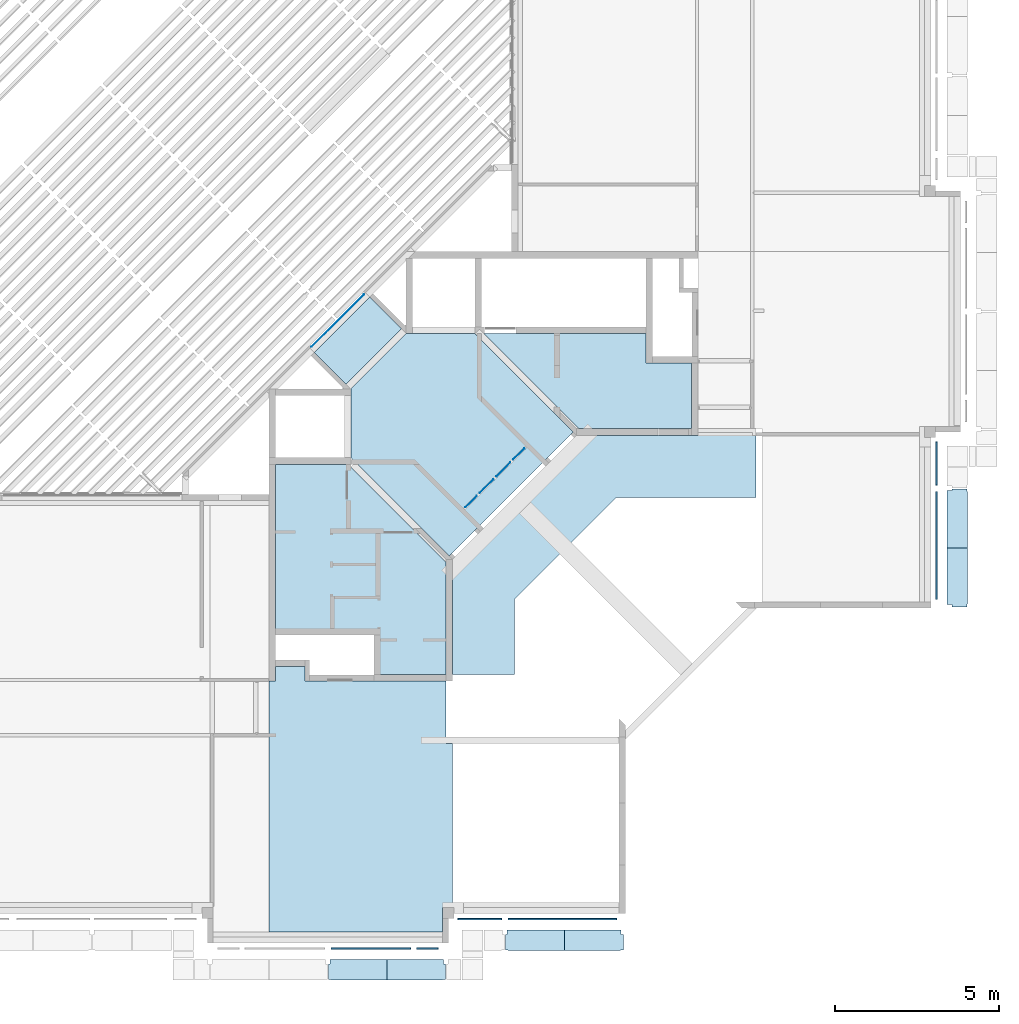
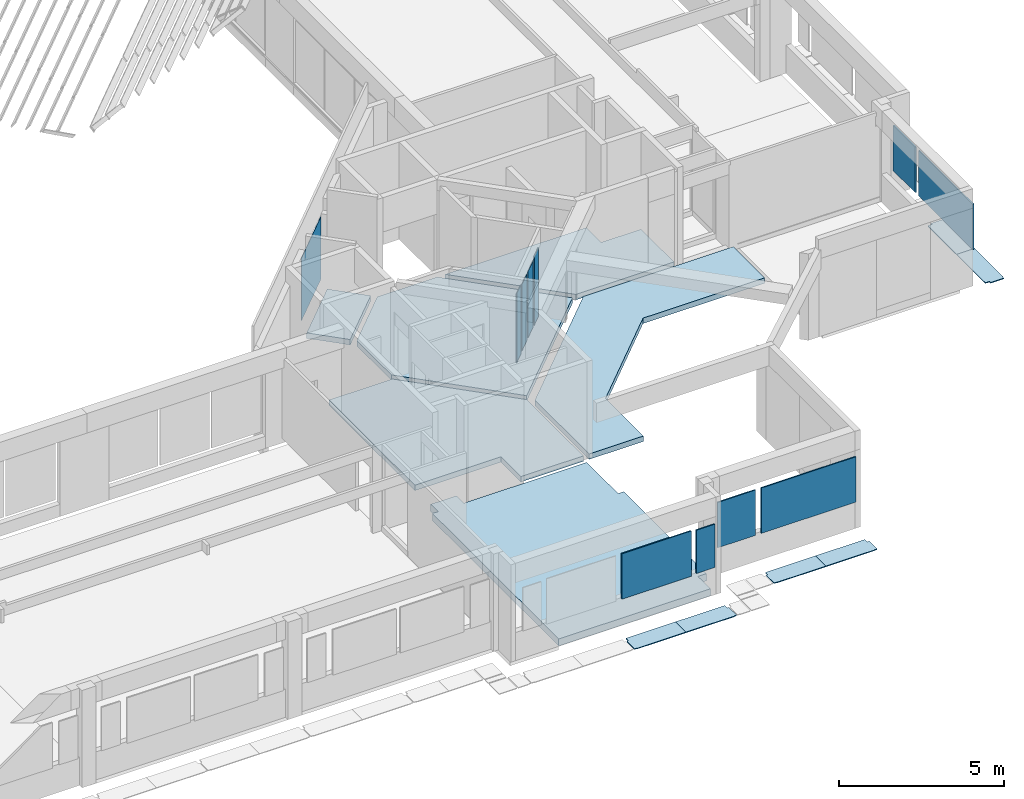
# One storey, part 18 of 37: 12 slabs, 11 plates.
"""IFC4X3_ADD2 building model written with IfcOpenShell, lengths in millimetres."""

from ifc_helpers import new_model, si_unit, direction, frame, frame_2d, origin_with_axes, origin_2d_with_axis, place, context, subcontext, project, spatial, polyline, rectangle, outline, extrude, source, transform, mapped, material, type_object, element, save


model = new_model("IFC4X3_ADD2")

# Units and contexts
model_context = context("Model", 3, precision=1e-05, world=origin_with_axes(), true_north=direction((0.0, 1.0)))
body_context = subcontext(model_context, "Body", "Model", "MODEL_VIEW")
ifc_project = project(units=[si_unit("LENGTHUNIT", "METRE", prefix="MILLI"), si_unit("AREAUNIT", "SQUARE_METRE"), si_unit("VOLUMEUNIT", "CUBIC_METRE"), si_unit("PLANEANGLEUNIT", "RADIAN"), si_unit("TIMEUNIT", "SECOND"), si_unit("MASSUNIT", "GRAM")], contexts=[model_context])

# Site, building, storey
site_placement = place(None, origin_with_axes())
site = spatial("IfcSite", under=ifc_project, at=site_placement, Name="Site", CompositionType="ELEMENT")
building_placement = place(site_placement, origin_with_axes())
building = spatial("IfcBuilding", under=site, at=building_placement, Name="IFC Building Story")
storey_placement = place(building_placement, frame((0.0, 0.0, 3600.0), z_axis=(0.0, 0.0, 1.0), x_axis=(1.0, 0.0, 0.0)))
storey = spatial("IfcBuildingStorey", under=building, at=storey_placement, Name="010", Elevation=3600.0)

# Slabs
ifc_material_1 = material(Name="BB_Beton_Bestaand")
slab_type_1 = type_object("IfcSlabType", Name="BB_Beton_Bestaand 200", PredefinedType="FLOOR", material=ifc_material_1)
slab_1_placement = place(storey_placement, frame((-18649.99999999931, 14864.99999999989, -280.0), z_axis=(0.0, 0.0, 1.0), x_axis=(0.7071067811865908, -0.7071067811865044, 0.0)))
element("IfcSlab", 1, at=slab_1_placement, inside=storey, type_object=slab_type_1, Name="Floor:BB_XX_Vloer uit beton, 200 mm", ObjectType="Floor:BB_XX_Vloer uit beton, 200 mm", PredefinedType="FLOOR", context=body_context, shape_type="SweptSolid", body=[
    extrude(outline(polyline([(3324.528325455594, 2676.399166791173), (3324.528325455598, -2676.399166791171), (-919.802042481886, -2676.399166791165), (-2404.726282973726, -1191.474926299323), (-2404.726282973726, 1191.474926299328), (-919.8020424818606, 2676.399166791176), (3324.528325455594, 2676.399166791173)])), frame((2404.726282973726, 2676.399166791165, 0.0), z_axis=(0.0, 0.0, 1.0), x_axis=(1.0, 0.0, 0.0)), (0.0, 0.0, 1.0), 200.0),
])
slab_2_placement = place(storey_placement, frame((-19899.99999999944, 13614.99999999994, -280.0), z_axis=(0.0, 0.0, 1.0), x_axis=(0.0, -1.0, 0.0)))
element("IfcSlab", 2, at=slab_2_placement, inside=storey, type_object=slab_type_1, Name="Floor:BB_XX_Vloer uit beton, 200 mm", ObjectType="Floor:BB_XX_Vloer uit beton, 200 mm", PredefinedType="FLOOR", context=body_context, shape_type="SweptSolid", body=[
    extrude(outline(polyline([(2668.879612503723, 347.5489589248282), (1458.879612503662, 347.5489589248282), (1458.879612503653, -2662.451041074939), (-3746.120387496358, -2662.451041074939), (-3746.120387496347, -445.293753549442), (-763.2776750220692, 2537.54895892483), (2668.879612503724, 2537.54895892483), (2668.879612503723, 347.5489589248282)])), frame((3746.120387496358, 2662.451041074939, 0.0), z_axis=(0.0, 0.0, 1.0), x_axis=(1.0, 0.0, 0.0)), (0.0, 0.0, 1.0), 200.0),
])
slab_3_placement = place(storey_placement, frame((-13532.15728752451, 14700.0, -280.0), z_axis=(0.0, 0.0, 1.0), x_axis=(1.0, 0.0, 0.0)))
element("IfcSlab", 3, at=slab_3_placement, inside=storey, type_object=slab_type_1, Name="Floor:BB_XX_Vloer uit beton, 200 mm", ObjectType="Floor:BB_XX_Vloer uit beton, 200 mm", PredefinedType="FLOOR", context=body_context, shape_type="SweptSolid", body=[
    extrude(outline(polyline([(694.0524291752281, 366.6666666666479), (2094.052429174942, 366.6666666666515), (2094.052429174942, -1633.333333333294), (-1338.104858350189, -1633.333333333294), (-4238.104858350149, 1266.666666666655), (694.0524291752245, 1266.666666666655), (694.0524291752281, 366.6666666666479)])), frame((4238.104858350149, 1633.333333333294, 0.0), z_axis=(0.0, 0.0, 1.0), x_axis=(1.0, 0.0, 0.0)), (0.0, 0.0, 1.0), 200.0),
])
slab_4_placement = place(storey_placement, frame((-7864.173180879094, 17124.17318087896, -280.0), z_axis=(0.0, 0.0, 1.0), x_axis=(-0.7071067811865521, -0.707106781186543, 0.0)))
element("IfcSlab", 4, at=slab_4_placement, inside=storey, type_object=slab_type_1, Name="Floor:BB_XX_Vloer uit beton, 200 mm", ObjectType="Floor:BB_XX_Vloer uit beton, 200 mm", PredefinedType="FLOOR", context=body_context, shape_type="SweptSolid", body=[
    extrude(outline(polyline([(2539.574004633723, -312.3915802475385), (4164.858941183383, 1312.893356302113), (5508.361825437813, -30.6095279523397), (3183.149814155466, -2355.821539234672), (-2490.185168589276, -2355.821539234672), (-6201.326471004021, 1355.319763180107), (-4857.823586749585, 2698.822647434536), (-1846.609359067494, -312.3915802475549), (2539.574004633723, -312.3915802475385)])), frame((6201.326471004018, 2355.82153923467, 0.0), z_axis=(0.0, 0.0, 1.0), x_axis=(1.0, 0.0, 0.0)), (0.0, 0.0, 1.0), 200.0),
])
slab_5_placement = place(storey_placement, frame((-17017.26073923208, 18718.98569550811, -280.0), z_axis=(0.0, 0.0, 1.0), x_axis=(-0.7069491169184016, -0.7072644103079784, 0.0)))
element("IfcSlab", 5, at=slab_5_placement, inside=storey, type_object=slab_type_1, Name="Floor:BB_XX_Vloer uit beton, 200 mm", ObjectType="Floor:BB_XX_Vloer uit beton, 200 mm", PredefinedType="FLOOR", context=body_context, shape_type="SweptSolid", body=[
    extrude(outline(polyline([(1199.753190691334, 682.5937516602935), (1199.514889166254, -682.8031227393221), (-1199.753154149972, -682.3843805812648), (-1199.514925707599, 682.5937516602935), (1199.753190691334, 682.5937516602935)])), frame((1199.753154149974, 682.8031227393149, 0.0), z_axis=(0.0, 0.0, 1.0), x_axis=(1.0, 0.0, 0.0)), (0.0, 0.0, 1.0), 200.0),
])

# Plates
ifc_material_2 = material(Name="BB_Glas")
shared_shape_1 = source(origin_with_axes(), body_context, "Body", "SweptSolid", [
    extrude(rectangle(XDim=1602.000000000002, YDim=652.000000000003, at=frame_2d((0.0, 0.0), x_axis=(0.0, 1.0))), frame((0.0, 0.0, -44.0), z_axis=(0.0, 0.0, 1.0), x_axis=(1.0, 0.0, 0.0)), (0.0, 0.0, 1.0), 44.0),
])
plate_1_placement = place(storey_placement, frame((-15264.0, -1187.50000000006, 1765.0), z_axis=(0.0, -1.0, 0.0), x_axis=(1.0, 0.0, 0.0)))
element("IfcPlate", 6, at=plate_1_placement, inside=storey, material=ifc_material_2, Name="BB_07.06_Buitenbeglazing, rechthoekig_GMO:07.06.72#01_Drievoudige beglazing, 44 mm, A/A*/A", ObjectType="BB_07.06_Buitenbeglazing, rechthoekig_GMO:07.06.72#01_Drievoudige beglazing, 44 mm, A/A*/A", PredefinedType="USERDEFINED", context=body_context, shape_type="MappedRepresentation", body=[
    mapped(shared_shape_1, transform((0.0, 0.0, 0.0))),
])
shared_shape_2 = source(origin_with_axes(), body_context, "Body", "SweptSolid", [
    extrude(rectangle(XDim=2432.0, YDim=1680.000000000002, at=origin_2d_with_axis()), frame((0.0, 0.0, -44.0), z_axis=(0.0, 0.0, 1.0), x_axis=(1.0, 0.0, 0.0)), (0.0, 0.0, 1.0), 44.0),
])
plate_2_placement = place(storey_placement, frame((-16984.0, -1187.50000000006, 1765.0), z_axis=(0.0, -1.0, 0.0), x_axis=(1.0, 0.0, 0.0)))
element("IfcPlate", 7, at=plate_2_placement, inside=storey, material=ifc_material_2, Name="BB_07.06_Buitenbeglazing, rechthoekig_GMO:07.06.72#01_Drievoudige beglazing, 44 mm, A/A*/A", ObjectType="BB_07.06_Buitenbeglazing, rechthoekig_GMO:07.06.72#01_Drievoudige beglazing, 44 mm, A/A*/A", PredefinedType="USERDEFINED", context=body_context, shape_type="MappedRepresentation", body=[
    mapped(shared_shape_2, transform((0.0, 0.0, 0.0))),
])
shared_shape_3 = source(origin_with_axes(), body_context, "Body", "SweptSolid", [
    extrude(rectangle(XDim=1680.000000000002, YDim=1332.600000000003, at=frame_2d((0.0, 0.0), x_axis=(0.0, 1.0))), frame((0.0, 0.0, -44.0), z_axis=(0.0, 0.0, 1.0), x_axis=(1.0, 0.0, 0.0)), (0.0, 0.0, 1.0), 44.0),
])
plate_3_placement = place(storey_placement, frame((-13663.2000000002, -287.499999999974, 1765.0), z_axis=(0.0, -1.0, 0.0), x_axis=(1.0, 0.0, 0.0)))
element("IfcPlate", 8, at=plate_3_placement, inside=storey, material=ifc_material_2, Name="BB_07.06_Buitenbeglazing, rechthoekig_GMO:07.06.72#01_Drievoudige beglazing, 44 mm, A/A*/A", ObjectType="BB_07.06_Buitenbeglazing, rechthoekig_GMO:07.06.72#01_Drievoudige beglazing, 44 mm, A/A*/A", PredefinedType="USERDEFINED", context=body_context, shape_type="MappedRepresentation", body=[
    mapped(shared_shape_3, transform((0.0, 0.0, 0.0))),
])
shared_shape_4 = source(origin_with_axes(), body_context, "Body", "SweptSolid", [
    extrude(rectangle(XDim=3306.4, YDim=1680.000000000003, at=origin_2d_with_axis()), frame((0.0, 0.0, -44.0), z_axis=(0.0, 0.0, 1.0), x_axis=(1.0, 0.0, 0.0)), (0.0, 0.0, 1.0), 44.0),
])
plate_4_placement = place(storey_placement, frame((-11143.7000000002, -287.499999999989, 1765.0), z_axis=(0.0, -1.0, 0.0), x_axis=(1.0, 0.0, 0.0)))
element("IfcPlate", 9, at=plate_4_placement, inside=storey, material=ifc_material_2, Name="BB_07.06_Buitenbeglazing, rechthoekig_GMO:07.06.72#01_Drievoudige beglazing, 44 mm, A/A*/A", ObjectType="BB_07.06_Buitenbeglazing, rechthoekig_GMO:07.06.72#01_Drievoudige beglazing, 44 mm, A/A*/A", PredefinedType="USERDEFINED", context=body_context, shape_type="MappedRepresentation", body=[
    mapped(shared_shape_4, transform((0.0, 0.0, 0.0))),
])
shared_shape_5 = source(origin_with_axes(), body_context, "Body", "SweptSolid", [
    extrude(rectangle(XDim=1680.000000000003, YDim=1332.600000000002, at=frame_2d((0.0, 0.0), x_axis=(0.0, 1.0))), frame((0.0, 0.0, -44.0), z_axis=(0.0, 0.0, 1.0), x_axis=(1.0, 0.0, 0.0)), (0.0, 0.0, 1.0), 44.0),
])
plate_5_placement = place(storey_placement, frame((287.500000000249, 13643.2000000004, 1765.0), z_axis=(1.0, 0.0, 0.0), x_axis=(0.0, -1.0, 0.0)))
element("IfcPlate", 10, at=plate_5_placement, inside=storey, material=ifc_material_2, Name="BB_07.06_Buitenbeglazing, rechthoekig_GMO:07.06.72#01_Drievoudige beglazing, 44 mm, A/A*/A", ObjectType="BB_07.06_Buitenbeglazing, rechthoekig_GMO:07.06.72#01_Drievoudige beglazing, 44 mm, A/A*/A", PredefinedType="USERDEFINED", context=body_context, shape_type="MappedRepresentation", body=[
    mapped(shared_shape_5, transform((0.0, 0.0, 0.0))),
])
shared_shape_6 = source(origin_with_axes(), body_context, "Body", "SweptSolid", [
    extrude(rectangle(XDim=3286.4, YDim=1680.000000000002, at=origin_2d_with_axis()), frame((0.0, 0.0, -44.0), z_axis=(0.0, 0.0, 1.0), x_axis=(1.0, 0.0, 0.0)), (0.0, 0.0, 1.0), 44.0),
])
plate_6_placement = place(storey_placement, frame((287.500000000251, 11133.7000000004, 1765.0), z_axis=(1.0, 0.0, 0.0), x_axis=(0.0, -1.0, 0.0)))
element("IfcPlate", 11, at=plate_6_placement, inside=storey, material=ifc_material_2, Name="BB_07.06_Buitenbeglazing, rechthoekig_GMO:07.06.72#01_Drievoudige beglazing, 44 mm, A/A*/A", ObjectType="BB_07.06_Buitenbeglazing, rechthoekig_GMO:07.06.72#01_Drievoudige beglazing, 44 mm, A/A*/A", PredefinedType="USERDEFINED", context=body_context, shape_type="MappedRepresentation", body=[
    mapped(shared_shape_6, transform((0.0, 0.0, 0.0))),
])
shared_shape_7 = source(origin_with_axes(), body_context, "Body", "SweptSolid", [
    extrude(rectangle(XDim=2452.0, YDim=592.500000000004, at=frame_2d((0.0, 0.0), x_axis=(0.0, 1.0))), frame((0.0, 0.0, -17.0), z_axis=(0.0, 0.0, 1.0), x_axis=(1.0, 0.0, 0.0)), (0.0, 0.0, 1.0), 17.0),
])
for number, where, z_axis, x_axis in (
    (12, (-12950.9289310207, 13462.5206872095, 1310.0), (-0.7071067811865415, 0.7071067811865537, 0.0), (-0.7071067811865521, -0.707106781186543, 0.0)),
    (13, (-13462.5206872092, 12950.928931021, 1310.0), (-0.7071067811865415, 0.7071067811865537, 0.0), (-0.7071067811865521, -0.707106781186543, 0.0)),
):
    element("IfcPlate", number, at=place(storey_placement, frame(where, z_axis=z_axis, x_axis=x_axis)), inside=storey, material=ifc_material_2, Name="BB_10.10_Binnenbeglazing, rechthoekig_GMO:10.10.41#01_Enkelvoudige beglazing, 2B2, EI30", ObjectType="BB_10.10_Binnenbeglazing, rechthoekig_GMO:10.10.41#01_Enkelvoudige beglazing, 2B2, EI30", PredefinedType="USERDEFINED", context=body_context, shape_type="MappedRepresentation", body=[
        mapped(shared_shape_7, transform((0.0, 0.0, 0.0))),
    ])
shared_shape_8 = source(origin_with_axes(), body_context, "Body", "SweptSolid", [
    extrude(rectangle(XDim=2554.0, YDim=481.000000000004, at=frame_2d((0.0, 0.0), x_axis=(0.0, 1.0))), frame((0.0, 0.0, -17.0), z_axis=(0.0, 0.0, 1.0), x_axis=(1.0, 0.0, 0.0)), (0.0, 0.0, 1.0), 17.0),
])
for number, where, z_axis, x_axis in (
    (14, (-12480.879698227, 13932.5699200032, 1335.0), (-0.7071067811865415, 0.7071067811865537, 0.0), (-0.7071067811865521, -0.707106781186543, 0.0)),
    (15, (-13932.569920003, 12480.8796982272, 1335.0), (-0.7071067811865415, 0.7071067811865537, 0.0), (-0.7071067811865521, -0.707106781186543, 0.0)),
):
    element("IfcPlate", number, at=place(storey_placement, frame(where, z_axis=z_axis, x_axis=x_axis)), inside=storey, material=ifc_material_2, Name="BB_10.10_Binnenbeglazing, rechthoekig_GMO:10.10.41#01_Enkelvoudige beglazing, 2B2, EI30", ObjectType="BB_10.10_Binnenbeglazing, rechthoekig_GMO:10.10.41#01_Enkelvoudige beglazing, 2B2, EI30", PredefinedType="USERDEFINED", context=body_context, shape_type="MappedRepresentation", body=[
        mapped(shared_shape_8, transform((0.0, 0.0, 0.0))),
    ])
shared_shape_9 = source(origin_with_axes(), body_context, "Body", "SweptSolid", [
    extrude(rectangle(XDim=2314.0, YDim=2254.0, at=frame_2d((0.0, 0.0), x_axis=(0.0, 1.0))), frame((0.0, 0.0, -17.0), z_axis=(0.0, 0.0, 1.0), x_axis=(1.0, 0.0, 0.0)), (0.0, 0.0, 1.0), 17.0),
])
plate_7_placement = place(storey_placement, frame((-18004.4454924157, 18004.4454924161, 1455.0), z_axis=(-0.7071067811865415, 0.7071067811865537, 0.0), x_axis=(-0.7071067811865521, -0.707106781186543, 0.0)))
element("IfcPlate", 16, at=plate_7_placement, inside=storey, material=ifc_material_2, Name="BB_10.10_Binnenbeglazing, rechthoekig_GMO:10.10.42#01_Enkelvoudige beglazing, 2B2, EI60", ObjectType="BB_10.10_Binnenbeglazing, rechthoekig_GMO:10.10.42#01_Enkelvoudige beglazing, 2B2, EI60", PredefinedType="USERDEFINED", context=body_context, shape_type="MappedRepresentation", body=[
    mapped(shared_shape_9, transform((0.0, 0.0, 0.0))),
])

# Slabs
slab_type_2 = type_object("IfcSlabType", Name="BB_Beton_Bestaand 260", PredefinedType="FLOOR", material=ifc_material_1)
slab_6_placement = place(storey_placement, frame((-20099.99999999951, 7449.99999999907, -460.0), z_axis=(0.0, 0.0, 1.0), x_axis=(0.0, -1.0, 0.0)))
element("IfcSlab", 17, at=slab_6_placement, inside=storey, type_object=slab_type_2, Name="Floor:BB_XX_Vloer welfsels, 260 mm", ObjectType="Floor:BB_XX_Vloer welfsels, 260 mm", PredefinedType="FLOOR", context=body_context, shape_type="SweptSolid", body=[
    extrude(outline(polyline([(4236.666666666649, 2370.860679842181), (4986.6666666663, 2370.860679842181), (4986.66666666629, -2934.13932015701), (-2668.33333333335, -2934.13932015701), (-2668.333333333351, -2734.13932015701), (-3118.333333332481, -2734.13932015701), (-3118.333333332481, -1834.303399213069), (-2668.333333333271, -1834.303399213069), (-2668.33333333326, 2465.860679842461), (-768.333333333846, 2465.86067984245), (-768.3333333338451, 2665.86067984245), (4236.666666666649, 2665.860679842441), (4236.666666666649, 2370.860679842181)])), frame((3118.333333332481, 2934.13932015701, 0.0), z_axis=(0.0, 0.0, 1.0), x_axis=(1.0, 0.0, 0.0)), (0.0, 0.0, 1.0), 260.0),
])
ifc_material_3 = material(Name="Steel, Galvanized - looprooster")
slab_type_3 = type_object("IfcSlabType", Name="Steel, Galvanized - looprooster 30", PredefinedType="FLOOR", material=ifc_material_3)
slab_7_placement = place(storey_placement, frame((-18285.99996376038, -2119.998382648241, -350.0), z_axis=(0.0, 0.0, 1.0), x_axis=(1.0, 0.0, 0.0)))
element("IfcSlab", 18, at=slab_7_placement, inside=storey, type_object=slab_type_3, Name="Floor:GVH - Looprooster 30 mm", ObjectType="Floor:GVH - Looprooster 30 mm", PredefinedType="FLOOR", context=body_context, shape_type="SweptSolid", body=[
    extrude(outline(polyline([(-394.249464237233, -282.4992180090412), (-394.249464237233, -267.4995613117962), (-481.2494642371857, -267.4995613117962), (-481.2494642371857, 202.4983406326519), (-429.2494642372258, 202.4983406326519), (-429.2494642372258, 347.5004386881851), (1304.748392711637, 347.5004386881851), (1304.748392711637, -282.4992180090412), (-394.249464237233, -282.4992180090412)])), frame((481.2494642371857, 282.4992180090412, 0.0), z_axis=(0.0, 0.0, 1.0), x_axis=(1.0, 0.0, 0.0)), (0.0, 0.0, 1.0), 30.0),
])
slab_8_placement = place(storey_placement, frame((-16499.49796372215, -2119.998382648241, -350.0), z_axis=(0.0, 0.0, 1.0), x_axis=(1.0, 0.0, 0.0)))
element("IfcSlab", 19, at=slab_8_placement, inside=storey, type_object=slab_type_3, Name="Floor:GVH - Looprooster 30 mm", ObjectType="Floor:GVH - Looprooster 30 mm", PredefinedType="FLOOR", context=body_context, shape_type="SweptSolid", body=[
    extrude(outline(polyline([(393.4995000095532, -267.4995613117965), (393.4995000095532, -282.4992180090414), (-1303.49849999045, -282.4992180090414), (-1303.49849999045, 347.5004386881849), (428.9994999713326, 347.5004386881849), (428.9994999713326, 202.4983406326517), (480.9995000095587, 202.4983406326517), (480.9995000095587, -267.4995613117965), (393.4995000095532, -267.4995613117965)])), frame((1303.49849999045, 282.4992180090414, 0.0), z_axis=(0.0, 0.0, 1.0), x_axis=(1.0, 0.0, 0.0)), (0.0, 0.0, 1.0), 30.0),
])
slab_9_placement = place(storey_placement, frame((-12885.49996376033, -1219.998397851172, -350.0), z_axis=(0.0, 0.0, 1.0), x_axis=(1.0, 0.0, 0.0)))
element("IfcSlab", 20, at=slab_9_placement, inside=storey, type_object=slab_type_3, Name="Floor:GVH - Looprooster 30 mm", ObjectType="Floor:GVH - Looprooster 30 mm", PredefinedType="FLOOR", context=body_context, shape_type="SweptSolid", body=[
    extrude(outline(polyline([(-398.3744551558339, -282.499218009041), (-398.3744551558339, -267.499561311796), (-485.3744551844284, -267.499561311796), (-485.3744551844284, 202.4983406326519), (-433.3744914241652, 202.4983406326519), (-433.3744914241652, 347.5004386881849), (1317.123401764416, 347.5004386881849), (1317.123401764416, -282.499218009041), (-398.3744551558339, -282.499218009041)])), frame((485.3744551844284, 282.499218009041, 0.0), z_axis=(0.0, 0.0, 1.0), x_axis=(1.0, 0.0, 0.0)), (0.0, 0.0, 1.0), 30.0),
])
slab_10_placement = place(storey_placement, frame((-11081.99810681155, -1219.998397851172, -350.0), z_axis=(0.0, 0.0, 1.0), x_axis=(1.0, 0.0, 0.0)))
element("IfcSlab", 21, at=slab_10_placement, inside=storey, type_object=slab_type_3, Name="Floor:GVH - Looprooster 30 mm", ObjectType="Floor:GVH - Looprooster 30 mm", PredefinedType="FLOOR", context=body_context, shape_type="SweptSolid", body=[
    extrude(outline(polyline([(404.2496073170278, -267.499561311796), (404.2496073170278, -282.499218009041), (-1312.748535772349, -282.499218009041), (-1312.748535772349, 347.5004386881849), (419.2494642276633, 347.5004386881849), (419.2494642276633, 202.4983406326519), (489.2494642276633, 202.4983406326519), (489.2494642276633, -267.499561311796), (404.2496073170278, -267.499561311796)])), frame((1312.748535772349, 282.499218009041, 0.0), z_axis=(0.0, 0.0, 1.0), x_axis=(1.0, 0.0, 0.0)), (0.0, 0.0, 1.0), 30.0),
])
slab_11_placement = place(storey_placement, frame((589.998741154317, 12865.49996376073, -350.0), z_axis=(0.0, 0.0, 1.0), x_axis=(0.0, -1.0, 0.0)))
element("IfcSlab", 22, at=slab_11_placement, inside=storey, type_object=slab_type_3, Name="Floor:GVH - Looprooster 30 mm", ObjectType="Floor:GVH - Looprooster 30 mm", PredefinedType="FLOOR", context=body_context, shape_type="SweptSolid", body=[
    extrude(outline(polyline([(-398.374455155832, 282.4992180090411), (1317.123401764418, 282.4992180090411), (1317.123401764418, -347.5004386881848), (-433.3744914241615, -347.5004386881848), (-433.3744914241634, -202.4983406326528), (-485.3744551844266, -202.4983406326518), (-485.3744551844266, 267.4995613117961), (-398.374455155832, 267.4995613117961), (-398.374455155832, 282.4992180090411)])), frame((485.3744551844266, 347.5004386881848, 0.0), z_axis=(0.0, 0.0, 1.0), x_axis=(1.0, 0.0, 0.0)), (0.0, 0.0, 1.0), 30.0),
])
slab_12_placement = place(storey_placement, frame((589.998741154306, 11061.99810681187, -350.0), z_axis=(0.0, 0.0, 1.0), x_axis=(0.0, -1.0, 0.0)))
element("IfcSlab", 23, at=slab_12_placement, inside=storey, type_object=slab_type_3, Name="Floor:GVH - Looprooster 30 mm", ObjectType="Floor:GVH - Looprooster 30 mm", PredefinedType="FLOOR", context=body_context, shape_type="SweptSolid", body=[
    extrude(outline(polyline([(489.2494642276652, -202.4983406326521), (419.2494642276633, -202.4983406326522), (419.2494642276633, -347.5004386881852), (-1312.748535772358, -347.5004386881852), (-1312.748535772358, 282.4992180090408), (404.2496073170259, 282.4992180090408), (404.2496073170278, 267.4995613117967), (489.2494642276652, 267.4995613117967), (489.2494642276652, -202.4983406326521)])), frame((1312.748535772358, 347.5004386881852, 0.0), z_axis=(0.0, 0.0, 1.0), x_axis=(1.0, 0.0, 0.0)), (0.0, 0.0, 1.0), 30.0),
])

save(model, "model.ifc")
